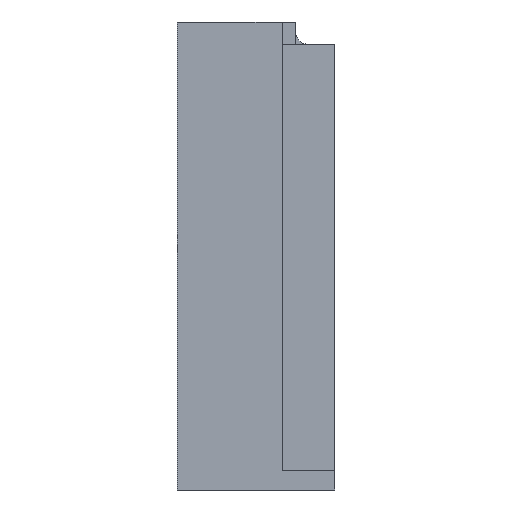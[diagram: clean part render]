
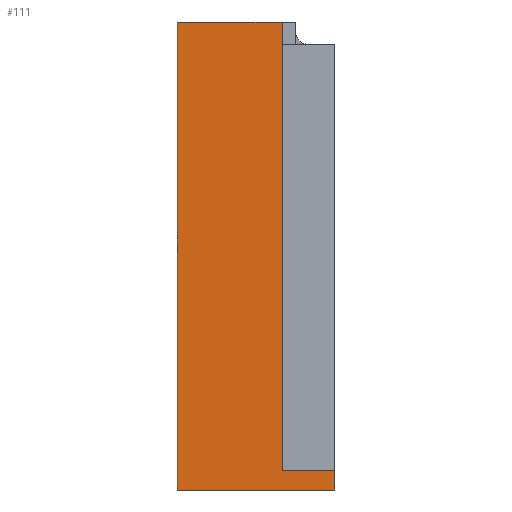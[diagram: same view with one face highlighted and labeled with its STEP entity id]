
A CAD part, left-side view. The second image highlights one B-rep face of the part: STEP entity #111.
In plain terms, the highlighted planar face has unit normal (-1, 0, 0).
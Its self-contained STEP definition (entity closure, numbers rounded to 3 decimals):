
#111=ADVANCED_FACE('',(#583),#3680,.T.);
#583=FACE_OUTER_BOUND('',#1056,.F.);
#1056=EDGE_LOOP('',(#1600,#1601,#1602,#1603,#1604,#1605,#1606));
#1600=ORIENTED_EDGE('',*,*,#4162,.F.);
#1601=ORIENTED_EDGE('',*,*,#4152,.T.);
#1602=ORIENTED_EDGE('',*,*,#4158,.T.);
#1603=ORIENTED_EDGE('',*,*,#4157,.F.);
#1604=ORIENTED_EDGE('',*,*,#4170,.F.);
#1605=ORIENTED_EDGE('',*,*,#4166,.T.);
#1606=ORIENTED_EDGE('',*,*,#4169,.T.);
#3680=PLANE('',#7938);
#4152=EDGE_CURVE('',#7924,#7923,#5203,.T.);
#4157=EDGE_CURVE('',#7919,#7917,#5208,.T.);
#4158=EDGE_CURVE('',#7923,#7917,#5209,.T.);
#4162=EDGE_CURVE('',#7924,#7915,#5213,.T.);
#4166=EDGE_CURVE('',#7913,#7911,#5217,.T.);
#4169=EDGE_CURVE('',#7911,#7915,#5220,.T.);
#4170=EDGE_CURVE('',#7913,#7919,#5221,.T.);
#5203=LINE('',#11044,#6252);
#5208=LINE('',#11049,#6257);
#5209=LINE('',#11050,#6258);
#5213=LINE('',#11054,#6262);
#5217=LINE('',#11058,#6266);
#5220=LINE('',#11061,#6269);
#5221=LINE('',#11062,#6270);
#6252=VECTOR('',#8412,1.7);
#6257=VECTOR('',#8417,4.);
#6258=VECTOR('',#8418,32.54);
#6262=VECTOR('',#8422,8.);
#6266=VECTOR('',#8426,12.);
#6269=VECTOR('',#8429,35.7);
#6270=VECTOR('',#8430,1.46);
#7911=VERTEX_POINT('',#11022);
#7913=VERTEX_POINT('',#11024);
#7915=VERTEX_POINT('',#11026);
#7917=VERTEX_POINT('',#11028);
#7919=VERTEX_POINT('',#11030);
#7923=VERTEX_POINT('',#11034);
#7924=VERTEX_POINT('',#11035);
#7938=AXIS2_PLACEMENT_3D('',#12096,#9471,#9472);
#8412=DIRECTION('',(0.,0.,-1.));
#8417=DIRECTION('',(0.,1.,0.));
#8418=DIRECTION('',(0.,0.,-1.));
#8422=DIRECTION('',(0.,1.,0.));
#8426=DIRECTION('',(0.,1.,0.));
#8429=DIRECTION('',(0.,0.,1.));
#8430=DIRECTION('',(0.,0.,1.));
#9471=DIRECTION('',(-1.,0.,0.));
#9472=DIRECTION('',(0.,1.,0.));
#11022=CARTESIAN_POINT('',(-13.747,14.418,-15.899));
#11024=CARTESIAN_POINT('',(-13.747,2.418,-15.899));
#11026=CARTESIAN_POINT('',(-13.747,14.418,19.801));
#11028=CARTESIAN_POINT('',(-13.747,6.418,-14.439));
#11030=CARTESIAN_POINT('',(-13.747,2.418,-14.439));
#11034=CARTESIAN_POINT('',(-13.747,6.418,18.101));
#11035=CARTESIAN_POINT('',(-13.747,6.418,19.801));
#11044=CARTESIAN_POINT('',(-13.747,6.418,19.801));
#11049=CARTESIAN_POINT('',(-13.747,2.418,-14.439));
#11050=CARTESIAN_POINT('',(-13.747,6.418,18.101));
#11054=CARTESIAN_POINT('',(-13.747,6.418,19.801));
#11058=CARTESIAN_POINT('',(-13.747,2.418,-15.899));
#11061=CARTESIAN_POINT('',(-13.747,14.418,-15.899));
#11062=CARTESIAN_POINT('',(-13.747,2.418,-15.899));
#12096=CARTESIAN_POINT('',(-13.747,2.061,20.158));
